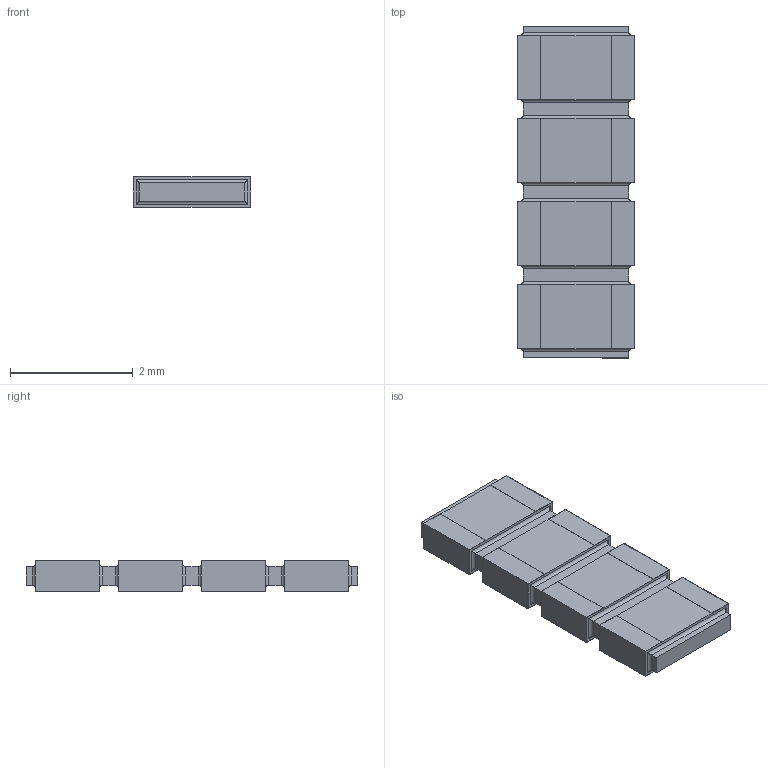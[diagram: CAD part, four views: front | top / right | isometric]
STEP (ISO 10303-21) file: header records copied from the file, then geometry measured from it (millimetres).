
FILE_DESCRIPTION(/* description */ (''),/* implementation_level */ '2;1');
FILE_NAME(/* name */ 'S:\DOCUMENT\AUTOCAD\3D_Modèles\10_3D-pour-VISHAY-COM\PRA\PRA135\PRA135-I2_à_I8\10_IGES\PRA135I4_B-or-N-or-G.stp',/* time_stamp */ '2017-12-18T12:06:41+01:00',/* author */ ('dparmentier'),/* organization */ ('unknown'),/* preprocessor_version */ 'ST-DEVELOPER v17',/* originating_system */ 'Autodesk Inventor 2018',/* authorisation */ '');
FILE_SCHEMA (('AUTOMOTIVE_DESIGN { 1 0 10303 214 3 1 1 }'));
Length unit declared in the file: millimetre
Products named in the file (1): PRA135I4_B-or-N-or-G
Bounding box: 1.91 x 5.4 x 0.5 mm (x, y, z)
Volume: 4.6 mm3; surface area: 49.8 mm2
Topology: 9 solids, 9 shells, 158 faces, 364 edges, 232 vertices
Faces by surface type: plane 126, cylinder 32
Entity records: 4409 total; most frequent: CARTESIAN_POINT 755, ORIENTED_EDGE 728, DIRECTION 714, EDGE_CURVE 364, LINE 332, VECTOR 332, VERTEX_POINT 232, AXIS2_PLACEMENT_3D 191
